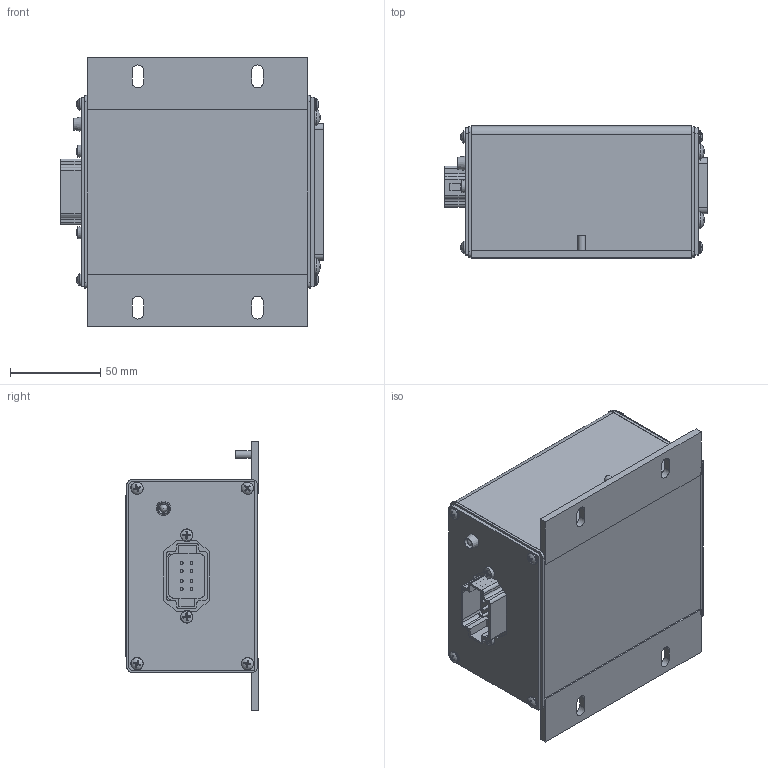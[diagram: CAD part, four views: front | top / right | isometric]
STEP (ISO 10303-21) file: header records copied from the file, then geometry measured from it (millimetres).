
FILE_DESCRIPTION(/* description */ (''),/* implementation_level */ '2;1');
FILE_NAME(/* name */ 'S:\Projects\CAT-DIO_R5, CAT171000, Proj#10002\Unit Assembly\RELEASED\B\GENERIC DIO.stp',/* time_stamp */ '2017-10-19T14:00:30-04:00',/* author */ ('tfisher'),/* organization */ (''),/* preprocessor_version */ 'ST-DEVELOPER v15.2',/* originating_system */ 'Autodesk Inventor 2014',/* authorisation */ '');
FILE_SCHEMA (('AUTOMOTIVE_DESIGN { 1 0 10303 214 3 1 1 }'));
Products named in the file (1): GENERIC DIO
Bounding box: 145.31 x 73.25 x 149 mm (x, y, z)
Volume: 298469.6 mm3; surface area: 185493 mm2
Topology: 1 solids, 32 shells, 2591 faces, 6438 edges, 4205 vertices
Faces by surface type: plane 1644, cylinder 458, cone 183, bspline 159, torus 132, sphere 15
Full cylindrical faces by diameter (mm): 0.507 x6, 1.575 x196, 2.54 x2, 2.642 x8, 3.302 x6, 3.505 x12, 3.962 x14, 4 x3, 4.064 x9, 4.14 x2, 4.166 x1, 4.211 x1, 4.572 x2, 4.75 x1, 4.826 x7, 5.359 x4, 5.992 x2, 6.096 x1, 6.502 x4, 6.528 x3, 6.655 x5, 6.858 x9, 8.077 x2, 9.474 x4
Entity records: 78908 total; most frequent: CARTESIAN_POINT 19015, ORIENTED_EDGE 11828, DIRECTION 11290, EDGE_CURVE 5906, VERTEX_POINT 4063, AXIS2_PLACEMENT_3D 3812, LINE 3666, VECTOR 3666
